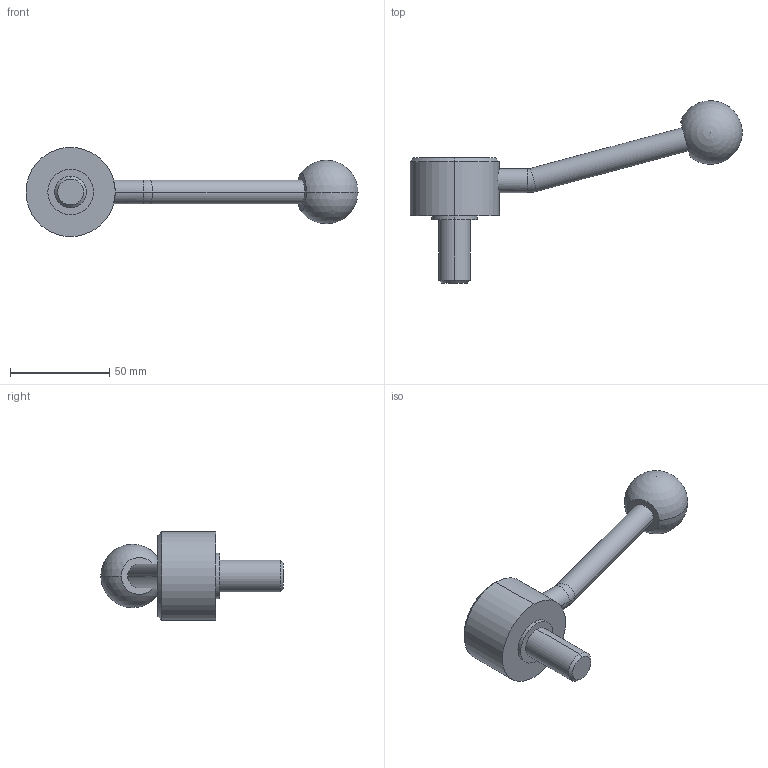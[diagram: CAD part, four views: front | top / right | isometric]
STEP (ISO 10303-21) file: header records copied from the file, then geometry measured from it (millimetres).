
FILE_DESCRIPTION (( 'STEP AP214' ), '1' );
FILE_NAME ('125.5-45-M16-32-E.step', '2020-02-18T11:43:25', ( '' ), ( '' ), 'SwSTEP 2.0', 'SolidWorks 2019', '' );
FILE_SCHEMA (( 'AUTOMOTIVE_DESIGN' ));
Length unit declared in the file: millimetre
Products named in the file (1): 125.5-45-M16-32-E
Bounding box: 167.44 x 91.99 x 45 mm (x, y, z)
Volume: 81219.4 mm3; surface area: 15480.7 mm2
Topology: 1 solids, 1 shells, 26 faces, 55 edges, 34 vertices
Faces by surface type: cylinder 12, plane 6, cone 4, torus 2, sphere 2
Entity records: 850 total; most frequent: CARTESIAN_POINT 192, DIRECTION 134, ORIENTED_EDGE 100, AXIS2_PLACEMENT_3D 59, EDGE_CURVE 50, CIRCLE 32, VERTEX_POINT 31, EDGE_LOOP 31
